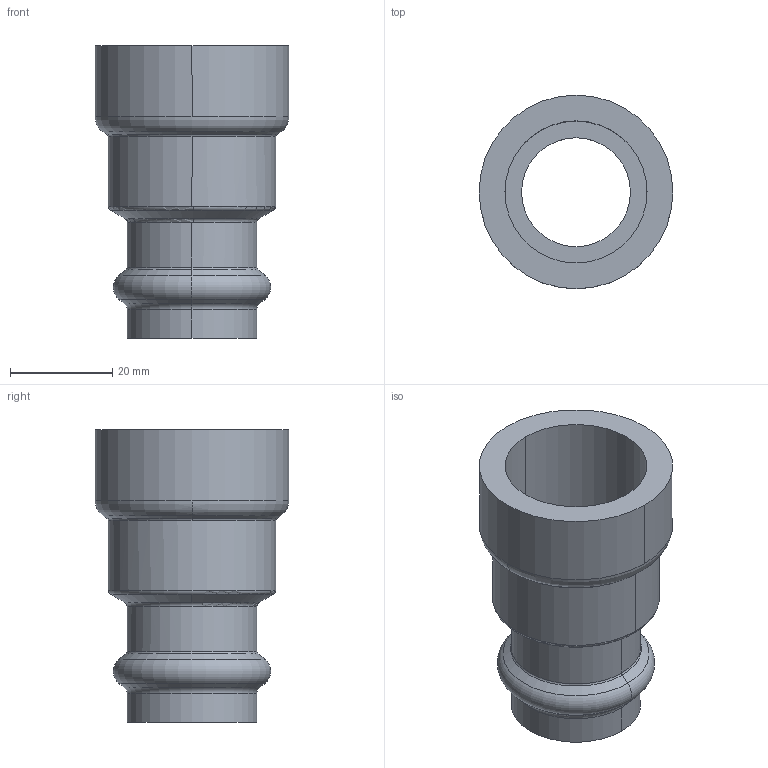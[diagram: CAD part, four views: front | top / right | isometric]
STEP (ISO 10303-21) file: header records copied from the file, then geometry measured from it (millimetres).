
FILE_DESCRIPTION(('Creo Elements/Direct Modeling STEP Export'),'2;1');
FILE_NAME('C9440_3-4_22.stp','2020-07-20T11:17:38',(''),(''),'PTC Creo Elements/Direct Modeling STEP processor for AP214 (Solid Model)','PTC Creo Elements/Direct Modeling 19.0C 15-Aug-2015 (C) Parametric Technology GmbH','');
FILE_SCHEMA(('AUTOMOTIVE_DESIGN { 1 0 10303 214 1 1 1 1 }'));
Length unit declared in the file: millimetre
Products named in the file (2): C9440_3-4_22
Assembly tree (1 placements, depth 2):
  C9440_3-4_22
    C9440_3-4_22
Bounding box: 37.9 x 37.9 x 57.29 mm (x, y, z)
Volume: 16572.7 mm3; surface area: 11634 mm2
Topology: 1 solids, 1 shells, 40 faces, 95 edges, 59 vertices
Faces by surface type: cylinder 14, torus 14, cone 8, plane 4
Entity records: 1052 total; most frequent: ORIENTED_EDGE 190, DIRECTION 178, CARTESIAN_POINT 159, EDGE_CURVE 95, AXIS2_PLACEMENT_3D 78, VERTEX_POINT 59, EDGE_LOOP 44, FACE_OUTER_BOUND 40
